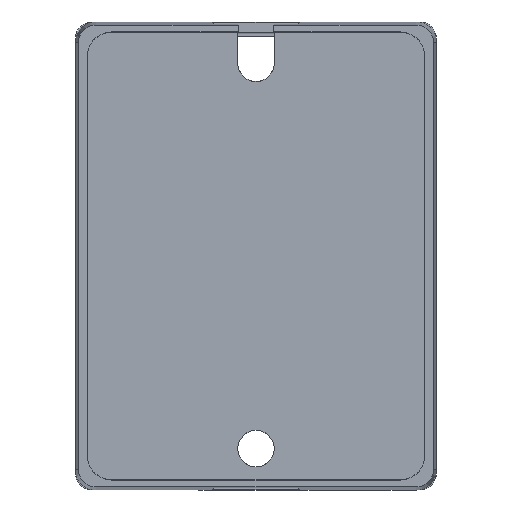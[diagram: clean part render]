
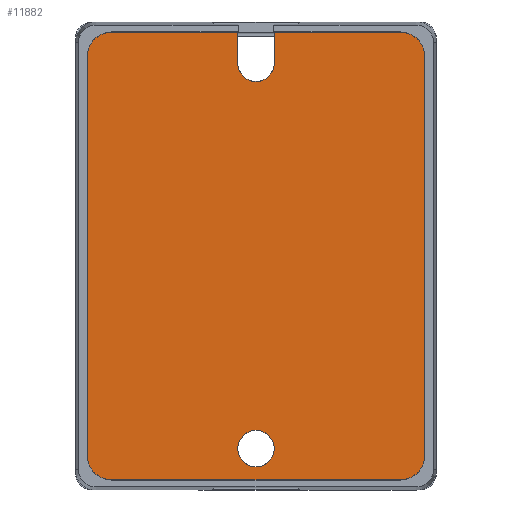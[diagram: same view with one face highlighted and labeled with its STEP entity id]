
A CAD part, front view. The second image highlights one B-rep face of the part: STEP entity #11882.
In plain terms, the highlighted planar face has unit normal (0, -1, 0).
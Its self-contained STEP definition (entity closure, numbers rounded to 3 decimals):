
#77 = CARTESIAN_POINT ( 'NONE',  ( 17.8, -22.7, 27.6 ) ) ;
#158 = LINE ( 'NONE', #6958, #16023 ) ;
#202 = VERTEX_POINT ( 'NONE', #6044 ) ;
#401 = VECTOR ( 'NONE', #2981, 1000. ) ;
#803 = DIRECTION ( 'NONE',  ( 0., 1., 0. ) ) ;
#905 = CARTESIAN_POINT ( 'NONE',  ( 0., -22.7, -21.5 ) ) ;
#1056 = DIRECTION ( 'NONE',  ( 0., -1., 0. ) ) ;
#1178 = EDGE_CURVE ( 'NONE', #9191, #15371, #2401, .T. ) ;
#1244 = CARTESIAN_POINT ( 'NONE',  ( 20.8, -22.7, -24.6 ) ) ;
#1485 = VECTOR ( 'NONE', #9587, 1000. ) ;
#1638 = CARTESIAN_POINT ( 'NONE',  ( 20.8, -22.7, -24.6 ) ) ;
#1726 = CARTESIAN_POINT ( 'NONE',  ( -2.25, -22.7, 27.6 ) ) ;
#1814 = EDGE_CURVE ( 'NONE', #2517, #3772, #5557, .T. ) ;
#2061 = CARTESIAN_POINT ( 'NONE',  ( 0., -22.7, -26. ) ) ;
#2148 = DIRECTION ( 'NONE',  ( 0., 0., -1. ) ) ;
#2274 = VECTOR ( 'NONE', #5481, 1000. ) ;
#2376 = EDGE_CURVE ( 'NONE', #2568, #7683, #158, .T. ) ;
#2401 = LINE ( 'NONE', #77, #401 ) ;
#2455 = CARTESIAN_POINT ( 'NONE',  ( 2.25, -22.7, 27.6 ) ) ;
#2517 = VERTEX_POINT ( 'NONE', #905 ) ;
#2530 = ORIENTED_EDGE ( 'NONE', *, *, #2376, .T. ) ;
#2568 = VERTEX_POINT ( 'NONE', #5052 ) ;
#2738 = CIRCLE ( 'NONE', #9165, 3. ) ;
#2981 = DIRECTION ( 'NONE',  ( -1., 0., 0. ) ) ;
#3019 = DIRECTION ( 'NONE',  ( 0., 0., -1. ) ) ;
#3035 = DIRECTION ( 'NONE',  ( -1., 0., 0. ) ) ;
#3199 = ORIENTED_EDGE ( 'NONE', *, *, #11741, .T. ) ;
#3220 = ORIENTED_EDGE ( 'NONE', *, *, #4952, .T. ) ;
#3366 = CARTESIAN_POINT ( 'NONE',  ( -2.25, -22.7, 23.75 ) ) ;
#3772 = VERTEX_POINT ( 'NONE', #2061 ) ;
#3828 = DIRECTION ( 'NONE',  ( 0., -1., 0. ) ) ;
#4120 = ORIENTED_EDGE ( 'NONE', *, *, #6332, .T. ) ;
#4939 = VERTEX_POINT ( 'NONE', #12704 ) ;
#4952 = EDGE_CURVE ( 'NONE', #4939, #9191, #9310, .T. ) ;
#5052 = CARTESIAN_POINT ( 'NONE',  ( -17.8, -22.7, -27.6 ) ) ;
#5201 = AXIS2_PLACEMENT_3D ( 'NONE', #10692, #15555, #3019 ) ;
#5481 = DIRECTION ( 'NONE',  ( 0., 0., 1. ) ) ;
#5519 = EDGE_CURVE ( 'NONE', #9363, #202, #7515, .T. ) ;
#5557 = CIRCLE ( 'NONE', #5201, 2.25 ) ;
#5574 = DIRECTION ( 'NONE',  ( 0., 0., -1. ) ) ;
#5630 = DIRECTION ( 'NONE',  ( 0., -1., 0. ) ) ;
#5997 = AXIS2_PLACEMENT_3D ( 'NONE', #8650, #14839, #8754 ) ;
#6044 = CARTESIAN_POINT ( 'NONE',  ( -17.8, -22.7, 27.6 ) ) ;
#6332 = EDGE_CURVE ( 'NONE', #9598, #2568, #2738, .T. ) ;
#6783 = EDGE_LOOP ( 'NONE', ( #10882, #8019 ) ) ;
#6898 = EDGE_CURVE ( 'NONE', #3772, #2517, #11640, .T. ) ;
#6929 = EDGE_CURVE ( 'NONE', #15371, #7747, #14592, .T. ) ;
#6958 = CARTESIAN_POINT ( 'NONE',  ( -17.8, -22.7, -27.6 ) ) ;
#7247 = CARTESIAN_POINT ( 'NONE',  ( 2.25, -22.7, 27.6 ) ) ;
#7505 = CARTESIAN_POINT ( 'NONE',  ( 17.8, -22.7, 24.6 ) ) ;
#7515 = LINE ( 'NONE', #1726, #11871 ) ;
#7518 = ORIENTED_EDGE ( 'NONE', *, *, #1178, .T. ) ;
#7683 = VERTEX_POINT ( 'NONE', #9645 ) ;
#7739 = CARTESIAN_POINT ( 'NONE',  ( -17.8, -22.7, 24.6 ) ) ;
#7747 = VERTEX_POINT ( 'NONE', #8263 ) ;
#7781 = DIRECTION ( 'NONE',  ( 0., 0., -1. ) ) ;
#7851 = FACE_BOUND ( 'NONE', #6783, .T. ) ;
#8019 = ORIENTED_EDGE ( 'NONE', *, *, #6898, .F. ) ;
#8251 = VERTEX_POINT ( 'NONE', #3366 ) ;
#8263 = CARTESIAN_POINT ( 'NONE',  ( 2.25, -22.7, 23.75 ) ) ;
#8426 = EDGE_CURVE ( 'NONE', #12887, #9598, #11014, .T. ) ;
#8622 = CARTESIAN_POINT ( 'NONE',  ( -17.8, -22.7, 24.6 ) ) ;
#8650 = CARTESIAN_POINT ( 'NONE',  ( 0., -22.7, -23.75 ) ) ;
#8672 = ORIENTED_EDGE ( 'NONE', *, *, #6929, .T. ) ;
#8711 = EDGE_CURVE ( 'NONE', #9876, #4939, #15739, .T. ) ;
#8754 = DIRECTION ( 'NONE',  ( 0., 0., -1. ) ) ;
#8803 = ORIENTED_EDGE ( 'NONE', *, *, #5519, .T. ) ;
#8991 = AXIS2_PLACEMENT_3D ( 'NONE', #9809, #803, #2148 ) ;
#9165 = AXIS2_PLACEMENT_3D ( 'NONE', #14405, #5630, #5574 ) ;
#9191 = VERTEX_POINT ( 'NONE', #13931 ) ;
#9275 = EDGE_CURVE ( 'NONE', #8251, #9363, #11985, .T. ) ;
#9310 = CIRCLE ( 'NONE', #12982, 3. ) ;
#9363 = VERTEX_POINT ( 'NONE', #14245 ) ;
#9566 = ORIENTED_EDGE ( 'NONE', *, *, #8711, .T. ) ;
#9580 = DIRECTION ( 'NONE',  ( 1., 0., 0. ) ) ;
#9587 = DIRECTION ( 'NONE',  ( 0., 0., -1. ) ) ;
#9598 = VERTEX_POINT ( 'NONE', #14970 ) ;
#9645 = CARTESIAN_POINT ( 'NONE',  ( 17.8, -22.7, -27.6 ) ) ;
#9809 = CARTESIAN_POINT ( 'NONE',  ( 0., -22.7, 23.75 ) ) ;
#9876 = VERTEX_POINT ( 'NONE', #1244 ) ;
#10030 = DIRECTION ( 'NONE',  ( 0., 0., -1. ) ) ;
#10089 = CIRCLE ( 'NONE', #13508, 3. ) ;
#10108 = DIRECTION ( 'NONE',  ( 0., -1., 0. ) ) ;
#10481 = ORIENTED_EDGE ( 'NONE', *, *, #15938, .T. ) ;
#10692 = CARTESIAN_POINT ( 'NONE',  ( 0., -22.7, -23.75 ) ) ;
#10882 = ORIENTED_EDGE ( 'NONE', *, *, #1814, .F. ) ;
#11014 = LINE ( 'NONE', #13521, #1485 ) ;
#11233 = VECTOR ( 'NONE', #10030, 1000. ) ;
#11517 = DIRECTION ( 'NONE',  ( 0., 0., -1. ) ) ;
#11640 = CIRCLE ( 'NONE', #5997, 2.25 ) ;
#11741 = EDGE_CURVE ( 'NONE', #7747, #8251, #15167, .T. ) ;
#11801 = CIRCLE ( 'NONE', #16071, 3. ) ;
#11871 = VECTOR ( 'NONE', #3035, 1000. ) ;
#11882 = ADVANCED_FACE ( 'NONE', ( #13594, #7851 ), #14043, .T. ) ;
#11985 = LINE ( 'NONE', #14028, #13576 ) ;
#12132 = EDGE_CURVE ( 'NONE', #202, #12887, #11801, .T. ) ;
#12704 = CARTESIAN_POINT ( 'NONE',  ( 20.8, -22.7, 24.6 ) ) ;
#12887 = VERTEX_POINT ( 'NONE', #16351 ) ;
#12895 = DIRECTION ( 'NONE',  ( 0., -1., 0. ) ) ;
#12982 = AXIS2_PLACEMENT_3D ( 'NONE', #7505, #10108, #15186 ) ;
#13066 = DIRECTION ( 'NONE',  ( 0., 0., -1. ) ) ;
#13508 = AXIS2_PLACEMENT_3D ( 'NONE', #14266, #12895, #13066 ) ;
#13521 = CARTESIAN_POINT ( 'NONE',  ( -20.8, -22.7, 24.6 ) ) ;
#13576 = VECTOR ( 'NONE', #15300, 1000. ) ;
#13594 = FACE_OUTER_BOUND ( 'NONE', #13618, .T. ) ;
#13618 = EDGE_LOOP ( 'NONE', ( #13937, #8803, #16229, #15584, #4120, #2530, #10481, #9566, #3220, #7518, #8672, #3199 ) ) ;
#13931 = CARTESIAN_POINT ( 'NONE',  ( 17.8, -22.7, 27.6 ) ) ;
#13937 = ORIENTED_EDGE ( 'NONE', *, *, #9275, .T. ) ;
#14028 = CARTESIAN_POINT ( 'NONE',  ( -2.25, -22.7, 23.75 ) ) ;
#14043 = PLANE ( 'NONE',  #14069 ) ;
#14069 = AXIS2_PLACEMENT_3D ( 'NONE', #7739, #3828, #11517 ) ;
#14245 = CARTESIAN_POINT ( 'NONE',  ( -2.25, -22.7, 27.6 ) ) ;
#14266 = CARTESIAN_POINT ( 'NONE',  ( 17.8, -22.7, -24.6 ) ) ;
#14405 = CARTESIAN_POINT ( 'NONE',  ( -17.8, -22.7, -24.6 ) ) ;
#14592 = LINE ( 'NONE', #7247, #11233 ) ;
#14839 = DIRECTION ( 'NONE',  ( 0., -1., 0. ) ) ;
#14970 = CARTESIAN_POINT ( 'NONE',  ( -20.8, -22.7, -24.6 ) ) ;
#15167 = CIRCLE ( 'NONE', #8991, 2.25 ) ;
#15186 = DIRECTION ( 'NONE',  ( 0., 0., -1. ) ) ;
#15300 = DIRECTION ( 'NONE',  ( 0., 0., 1. ) ) ;
#15371 = VERTEX_POINT ( 'NONE', #2455 ) ;
#15555 = DIRECTION ( 'NONE',  ( 0., -1., 0. ) ) ;
#15584 = ORIENTED_EDGE ( 'NONE', *, *, #8426, .T. ) ;
#15739 = LINE ( 'NONE', #1638, #2274 ) ;
#15938 = EDGE_CURVE ( 'NONE', #7683, #9876, #10089, .T. ) ;
#16023 = VECTOR ( 'NONE', #9580, 1000. ) ;
#16071 = AXIS2_PLACEMENT_3D ( 'NONE', #8622, #1056, #7781 ) ;
#16229 = ORIENTED_EDGE ( 'NONE', *, *, #12132, .T. ) ;
#16351 = CARTESIAN_POINT ( 'NONE',  ( -20.8, -22.7, 24.6 ) ) ;
